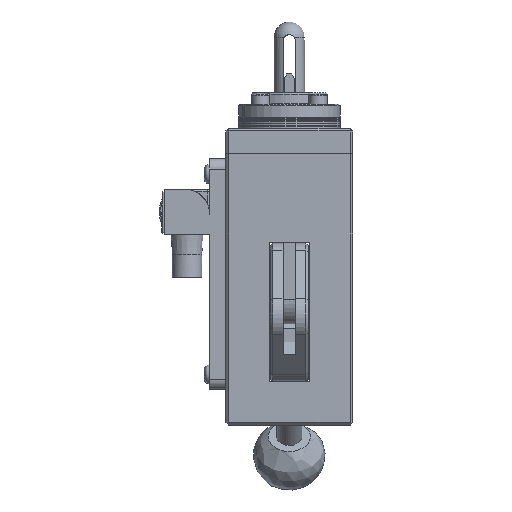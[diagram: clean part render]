
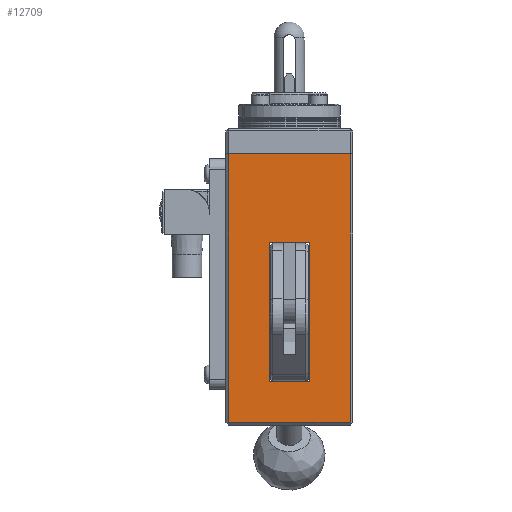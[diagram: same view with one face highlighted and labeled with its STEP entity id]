
A CAD part, left-side view. The second image highlights one B-rep face of the part: STEP entity #12709.
In plain terms, the highlighted planar face has unit normal (-1, 0, 0).
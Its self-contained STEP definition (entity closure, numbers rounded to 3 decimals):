
#584=LINE('',#20080,#1510);
#591=LINE('',#20110,#1517);
#617=LINE('',#20189,#1543);
#620=LINE('',#20195,#1546);
#662=LINE('',#20409,#1588);
#670=LINE('',#20431,#1596);
#682=LINE('',#20471,#1608);
#683=LINE('',#20473,#1609);
#1510=VECTOR('',#15740,10.);
#1517=VECTOR('',#15769,10.);
#1543=VECTOR('',#15845,10.);
#1546=VECTOR('',#15850,10.);
#1588=VECTOR('',#16082,10.);
#1596=VECTOR('',#16104,10.);
#1608=VECTOR('',#16148,10.);
#1609=VECTOR('',#16151,10.);
#2571=FACE_BOUND('',#3658,.T.);
#2856=FACE_OUTER_BOUND('',#3657,.T.);
#3657=EDGE_LOOP('',(#9392,#9393,#9394,#9395));
#3658=EDGE_LOOP('',(#9396,#9397,#9398,#9399));
#5396=VERTEX_POINT('',#20077);
#5397=VERTEX_POINT('',#20079);
#5408=VERTEX_POINT('',#20107);
#5409=VERTEX_POINT('',#20109);
#5437=VERTEX_POINT('',#20187);
#5439=VERTEX_POINT('',#20193);
#5516=VERTEX_POINT('',#20408);
#5523=VERTEX_POINT('',#20430);
#6789=EDGE_CURVE('',#5397,#5396,#584,.T.);
#6803=EDGE_CURVE('',#5408,#5409,#591,.T.);
#6840=EDGE_CURVE('',#5437,#5408,#617,.T.);
#6843=EDGE_CURVE('',#5439,#5437,#620,.T.);
#6946=EDGE_CURVE('',#5516,#5397,#662,.T.);
#6956=EDGE_CURVE('',#5523,#5516,#670,.T.);
#6974=EDGE_CURVE('',#5396,#5523,#682,.T.);
#6975=EDGE_CURVE('',#5409,#5439,#683,.T.);
#9392=ORIENTED_EDGE('',*,*,#6840,.F.);
#9393=ORIENTED_EDGE('',*,*,#6843,.F.);
#9394=ORIENTED_EDGE('',*,*,#6975,.F.);
#9395=ORIENTED_EDGE('',*,*,#6803,.F.);
#9396=ORIENTED_EDGE('',*,*,#6946,.T.);
#9397=ORIENTED_EDGE('',*,*,#6789,.T.);
#9398=ORIENTED_EDGE('',*,*,#6974,.T.);
#9399=ORIENTED_EDGE('',*,*,#6956,.T.);
#12238=PLANE('',#13896);
#12709=ADVANCED_FACE('',(#2856,#2571),#12238,.T.);
#13896=AXIS2_PLACEMENT_3D('',#20472,#16149,#16150);
#15740=DIRECTION('',(0.,0.,1.));
#15769=DIRECTION('',(0.,0.,1.));
#15845=DIRECTION('',(0.,1.,0.));
#15850=DIRECTION('',(0.,0.,-1.));
#16082=DIRECTION('',(0.,1.,0.));
#16104=DIRECTION('',(0.,0.,-1.));
#16148=DIRECTION('',(0.,-1.,0.));
#16149=DIRECTION('center_axis',(-1.,0.,0.));
#16150=DIRECTION('ref_axis',(0.,-1.,0.));
#16151=DIRECTION('',(0.,-1.,0.));
#20077=CARTESIAN_POINT('',(-36.509,7.434,18.5));
#20079=CARTESIAN_POINT('',(-36.509,7.434,-36.5));
#20080=CARTESIAN_POINT('',(-36.509,7.434,-45.));
#20107=CARTESIAN_POINT('',(-36.509,23.434,-52.5));
#20109=CARTESIAN_POINT('',(-36.509,23.434,53.5));
#20110=CARTESIAN_POINT('',(-36.509,23.434,-53.5));
#20187=CARTESIAN_POINT('',(-36.509,-24.566,-52.5));
#20189=CARTESIAN_POINT('',(-36.509,-6.816,-52.5));
#20193=CARTESIAN_POINT('',(-36.509,-24.566,53.5));
#20195=CARTESIAN_POINT('',(-36.509,-24.566,-53.5));
#20408=CARTESIAN_POINT('',(-36.509,-8.566,-36.5));
#20409=CARTESIAN_POINT('',(-36.509,-0.566,-36.5));
#20430=CARTESIAN_POINT('',(-36.509,-8.566,18.5));
#20431=CARTESIAN_POINT('',(-36.509,-8.566,-45.));
#20471=CARTESIAN_POINT('',(-36.509,-4.566,18.5));
#20472=CARTESIAN_POINT('Origin',(-36.509,-0.566,-53.5));
#20473=CARTESIAN_POINT('',(-36.509,-0.566,53.5));
